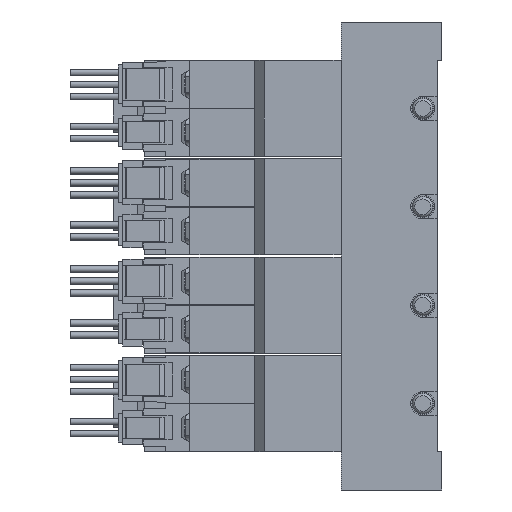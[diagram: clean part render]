
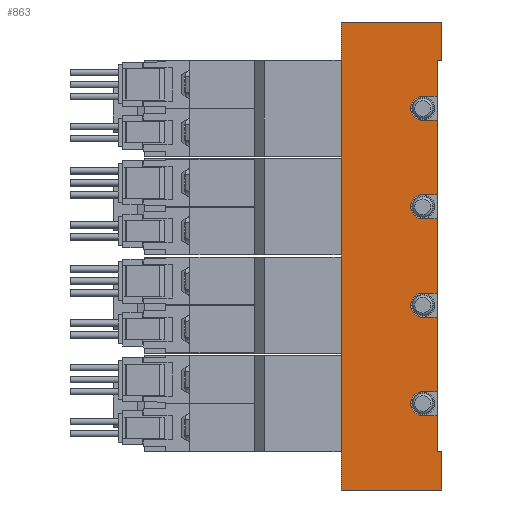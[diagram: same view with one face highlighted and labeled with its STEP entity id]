
A CAD part, left-side view. The second image highlights one B-rep face of the part: STEP entity #863.
In plain terms, the highlighted planar face has unit normal (-1, 0, 0) as drawn and (1, 0, 0) by its records, which use the part's own axes.
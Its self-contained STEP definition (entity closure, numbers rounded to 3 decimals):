
#863=ADVANCED_FACE('',(#1842),#1843,.F.);
#1842=FACE_OUTER_BOUND('',#2834,.T.);
#1843=PLANE('',#2835);
#2834=EDGE_LOOP('',(#6225,#6226,#6227,#6228,#6229,#6230,#6231,#6232,#6233,#6234,#6235,#6236,#6237,#6238,#6239,#6240,#6241,#6242,#6243,#6244,#6245,#6246,#6247,#6248));
#2835=AXIS2_PLACEMENT_3D('',#6249,#6250,#6251);
#6225=ORIENTED_EDGE('',*,*,#7355,.T.);
#6226=ORIENTED_EDGE('',*,*,#7249,.T.);
#6227=ORIENTED_EDGE('',*,*,#7293,.F.);
#6228=ORIENTED_EDGE('',*,*,#7230,.F.);
#6229=ORIENTED_EDGE('',*,*,#7222,.T.);
#6230=ORIENTED_EDGE('',*,*,#7368,.T.);
#6231=ORIENTED_EDGE('',*,*,#7365,.T.);
#6232=ORIENTED_EDGE('',*,*,#7330,.F.);
#6233=ORIENTED_EDGE('',*,*,#7325,.F.);
#6234=ORIENTED_EDGE('',*,*,#7287,.F.);
#6235=ORIENTED_EDGE('',*,*,#7364,.T.);
#6236=ORIENTED_EDGE('',*,*,#7358,.F.);
#6237=ORIENTED_EDGE('',*,*,#7356,.F.);
#6238=ORIENTED_EDGE('',*,*,#7351,.F.);
#6239=ORIENTED_EDGE('',*,*,#7363,.T.);
#6240=ORIENTED_EDGE('',*,*,#7369,.F.);
#6241=ORIENTED_EDGE('',*,*,#7263,.F.);
#6242=ORIENTED_EDGE('',*,*,#7233,.F.);
#6243=ORIENTED_EDGE('',*,*,#7361,.T.);
#6244=ORIENTED_EDGE('',*,*,#7302,.F.);
#6245=ORIENTED_EDGE('',*,*,#7242,.F.);
#6246=ORIENTED_EDGE('',*,*,#7283,.F.);
#6247=ORIENTED_EDGE('',*,*,#7360,.T.);
#6248=ORIENTED_EDGE('',*,*,#7348,.T.);
#6249=CARTESIAN_POINT('',(17.5,1.0,48.75));
#6250=DIRECTION('',(-1.0,0.0,0.0));
#6251=DIRECTION('',(0.0,0.0,1.0));
#7222=EDGE_CURVE('',#8918,#8919,#8920,.T.);
#7230=EDGE_CURVE('',#8918,#8934,#8935,.T.);
#7233=EDGE_CURVE('',#8939,#8940,#8941,.T.);
#7242=EDGE_CURVE('',#8954,#8956,#8957,.T.);
#7249=EDGE_CURVE('',#8968,#8969,#8970,.T.);
#7263=EDGE_CURVE('',#8940,#8993,#8994,.T.);
#7283=EDGE_CURVE('',#9031,#8954,#9032,.T.);
#7287=EDGE_CURVE('',#9036,#9037,#9038,.T.);
#7293=EDGE_CURVE('',#8934,#8969,#9046,.T.);
#7302=EDGE_CURVE('',#8956,#9063,#9064,.T.);
#7325=EDGE_CURVE('',#9037,#9102,#9103,.T.);
#7330=EDGE_CURVE('',#9102,#9111,#9112,.T.);
#7348=EDGE_CURVE('',#9133,#9139,#9141,.T.);
#7351=EDGE_CURVE('',#9144,#9145,#9146,.T.);
#7355=EDGE_CURVE('',#9139,#8968,#9151,.T.);
#7356=EDGE_CURVE('',#9145,#9152,#9153,.T.);
#7358=EDGE_CURVE('',#9152,#9155,#9156,.T.);
#7360=EDGE_CURVE('',#9031,#9133,#9158,.T.);
#7361=EDGE_CURVE('',#8939,#9063,#9159,.T.);
#7363=EDGE_CURVE('',#9144,#9160,#9162,.T.);
#7364=EDGE_CURVE('',#9036,#9155,#9163,.T.);
#7365=EDGE_CURVE('',#9164,#9111,#9165,.T.);
#7368=EDGE_CURVE('',#8919,#9164,#9169,.T.);
#7369=EDGE_CURVE('',#8993,#9160,#9170,.T.);
#8918=VERTEX_POINT('',#11717);
#8919=VERTEX_POINT('',#11718);
#8920=LINE('',#11719,#11720);
#8934=VERTEX_POINT('',#11740);
#8935=LINE('',#11741,#11742);
#8939=VERTEX_POINT('',#11747);
#8940=VERTEX_POINT('',#11748);
#8941=LINE('',#11749,#11750);
#8954=VERTEX_POINT('',#11767);
#8956=VERTEX_POINT('',#11770);
#8957=CIRCLE('',#11771,2.5);
#8968=VERTEX_POINT('',#11785);
#8969=VERTEX_POINT('',#11786);
#8970=LINE('',#11787,#11788);
#8993=VERTEX_POINT('',#11821);
#8994=CIRCLE('',#11822,2.5);
#9031=VERTEX_POINT('',#11863);
#9032=LINE('',#11864,#11865);
#9036=VERTEX_POINT('',#11872);
#9037=VERTEX_POINT('',#11873);
#9038=LINE('',#11874,#11875);
#9046=LINE('',#11887,#11888);
#9063=VERTEX_POINT('',#12037);
#9064=LINE('',#12038,#12039);
#9102=VERTEX_POINT('',#12082);
#9103=CIRCLE('',#12083,2.5);
#9111=VERTEX_POINT('',#12092);
#9112=LINE('',#12093,#12094);
#9133=VERTEX_POINT('',#12121);
#9139=VERTEX_POINT('',#12130);
#9141=LINE('',#12133,#12134);
#9144=VERTEX_POINT('',#12138);
#9145=VERTEX_POINT('',#12139);
#9146=LINE('',#12140,#12141);
#9151=LINE('',#12148,#12149);
#9152=VERTEX_POINT('',#12150);
#9153=CIRCLE('',#12151,2.5);
#9155=VERTEX_POINT('',#12154);
#9156=LINE('',#12155,#12156);
#9158=LINE('',#12159,#12160);
#9159=LINE('',#12161,#12162);
#9160=VERTEX_POINT('',#12163);
#9162=LINE('',#12166,#12167);
#9163=LINE('',#12168,#12169);
#9164=VERTEX_POINT('',#12170);
#9165=LINE('',#12171,#12172);
#9169=LINE('',#12178,#12179);
#9170=LINE('',#12180,#12181);
#11717=CARTESIAN_POINT('',(17.5,0.0,48.75));
#11718=CARTESIAN_POINT('',(17.5,0.0,40.75));
#11719=CARTESIAN_POINT('',(17.5,0.0,48.75));
#11720=VECTOR('',#13321,1.0);
#11740=CARTESIAN_POINT('',(17.5,21.0,48.75));
#11741=CARTESIAN_POINT('',(17.5,1.0,48.75));
#11742=VECTOR('',#13331,1.0);
#11747=CARTESIAN_POINT('',(17.5,1.0,-12.75));
#11748=CARTESIAN_POINT('',(17.5,4.0,-12.75));
#11749=CARTESIAN_POINT('',(17.5,1.0,-12.75));
#11750=VECTOR('',#13336,1.0);
#11767=CARTESIAN_POINT('',(17.5,4.0,-33.25));
#11770=CARTESIAN_POINT('',(17.5,4.0,-28.25));
#11771=AXIS2_PLACEMENT_3D('',#13348,#13349,#13350);
#11785=CARTESIAN_POINT('',(17.5,0.0,-48.75));
#11786=CARTESIAN_POINT('',(17.5,21.0,-48.75));
#11787=CARTESIAN_POINT('',(17.5,1.0,-48.75));
#11788=VECTOR('',#13363,1.0);
#11821=CARTESIAN_POINT('',(17.5,4.0,-7.75));
#11822=AXIS2_PLACEMENT_3D('',#13380,#13381,#13382);
#11863=CARTESIAN_POINT('',(17.5,1.0,-33.25));
#11864=CARTESIAN_POINT('',(17.5,1.0,-33.25));
#11865=VECTOR('',#13432,1.0);
#11872=CARTESIAN_POINT('',(17.5,1.0,28.25));
#11873=CARTESIAN_POINT('',(17.5,4.0,28.25));
#11874=CARTESIAN_POINT('',(17.5,1.0,28.25));
#11875=VECTOR('',#13436,1.0);
#11887=CARTESIAN_POINT('',(17.5,21.0,48.75));
#11888=VECTOR('',#13444,1.0);
#12037=CARTESIAN_POINT('',(17.5,1.0,-28.25));
#12038=CARTESIAN_POINT('',(17.5,1.0,-28.25));
#12039=VECTOR('',#13460,1.0);
#12082=CARTESIAN_POINT('',(17.5,4.0,33.25));
#12083=AXIS2_PLACEMENT_3D('',#13514,#13515,#13516);
#12092=CARTESIAN_POINT('',(17.5,1.0,33.25));
#12093=CARTESIAN_POINT('',(17.5,1.0,33.25));
#12094=VECTOR('',#13527,1.0);
#12121=CARTESIAN_POINT('',(17.5,1.0,-40.75));
#12130=CARTESIAN_POINT('',(17.5,0.0,-40.75));
#12133=CARTESIAN_POINT('',(17.5,4.0,-40.75));
#12134=VECTOR('',#13556,1.0);
#12138=CARTESIAN_POINT('',(17.5,1.0,7.75));
#12139=CARTESIAN_POINT('',(17.5,4.0,7.75));
#12140=CARTESIAN_POINT('',(17.5,1.0,7.75));
#12141=VECTOR('',#13561,1.0);
#12148=CARTESIAN_POINT('',(17.5,0.0,-40.75));
#12149=VECTOR('',#13567,1.0);
#12150=CARTESIAN_POINT('',(17.5,4.0,12.75));
#12151=AXIS2_PLACEMENT_3D('',#13568,#13569,#13570);
#12154=CARTESIAN_POINT('',(17.5,1.0,12.75));
#12155=CARTESIAN_POINT('',(17.5,1.0,12.75));
#12156=VECTOR('',#13572,1.0);
#12159=CARTESIAN_POINT('',(17.5,1.0,48.75));
#12160=VECTOR('',#13574,1.0);
#12161=CARTESIAN_POINT('',(17.5,1.0,48.75));
#12162=VECTOR('',#13575,1.0);
#12163=CARTESIAN_POINT('',(17.5,1.0,-7.75));
#12166=CARTESIAN_POINT('',(17.5,1.0,48.75));
#12167=VECTOR('',#13577,1.0);
#12168=CARTESIAN_POINT('',(17.5,1.0,48.75));
#12169=VECTOR('',#13578,1.0);
#12170=CARTESIAN_POINT('',(17.5,1.0,40.75));
#12171=CARTESIAN_POINT('',(17.5,1.0,48.75));
#12172=VECTOR('',#13579,1.0);
#12178=CARTESIAN_POINT('',(17.5,0.0,40.75));
#12179=VECTOR('',#13582,1.0);
#12180=CARTESIAN_POINT('',(17.5,1.0,-7.75));
#12181=VECTOR('',#13583,1.0);
#13321=DIRECTION('',(0.0,0.0,-1.0));
#13331=DIRECTION('',(0.0,1.0,0.0));
#13336=DIRECTION('',(0.0,1.0,0.0));
#13348=CARTESIAN_POINT('',(17.5,4.0,-30.75));
#13349=DIRECTION('',(1.0,0.0,-0.0));
#13350=DIRECTION('',(0.0,0.0,1.0));
#13363=DIRECTION('',(0.0,1.0,0.0));
#13380=CARTESIAN_POINT('',(17.5,4.0,-10.25));
#13381=DIRECTION('',(1.0,0.0,-0.0));
#13382=DIRECTION('',(0.0,0.0,1.0));
#13432=DIRECTION('',(0.0,1.0,0.0));
#13436=DIRECTION('',(0.0,1.0,0.0));
#13444=DIRECTION('',(0.0,0.0,-1.0));
#13460=DIRECTION('',(0.0,-1.0,0.0));
#13514=CARTESIAN_POINT('',(17.5,4.0,30.75));
#13515=DIRECTION('',(1.0,0.0,-0.0));
#13516=DIRECTION('',(0.0,0.0,1.0));
#13527=DIRECTION('',(0.0,-1.0,0.0));
#13556=DIRECTION('',(0.0,-1.0,0.0));
#13561=DIRECTION('',(0.0,1.0,0.0));
#13567=DIRECTION('',(0.0,0.0,-1.0));
#13568=CARTESIAN_POINT('',(17.5,4.0,10.25));
#13569=DIRECTION('',(1.0,0.0,-0.0));
#13570=DIRECTION('',(0.0,0.0,1.0));
#13572=DIRECTION('',(0.0,-1.0,0.0));
#13574=DIRECTION('',(0.0,0.0,-1.0));
#13575=DIRECTION('',(0.0,0.0,-1.0));
#13577=DIRECTION('',(0.0,0.0,-1.0));
#13578=DIRECTION('',(0.0,0.0,-1.0));
#13579=DIRECTION('',(0.0,0.0,-1.0));
#13582=DIRECTION('',(0.0,1.0,0.0));
#13583=DIRECTION('',(0.0,-1.0,0.0));
